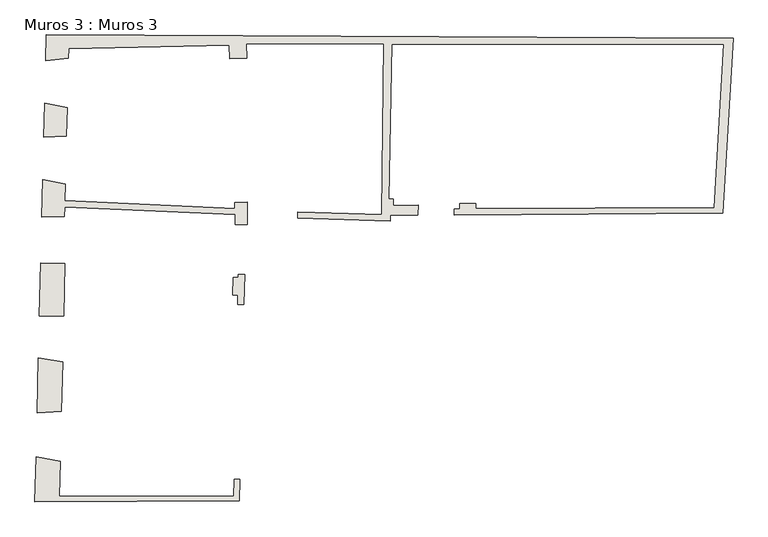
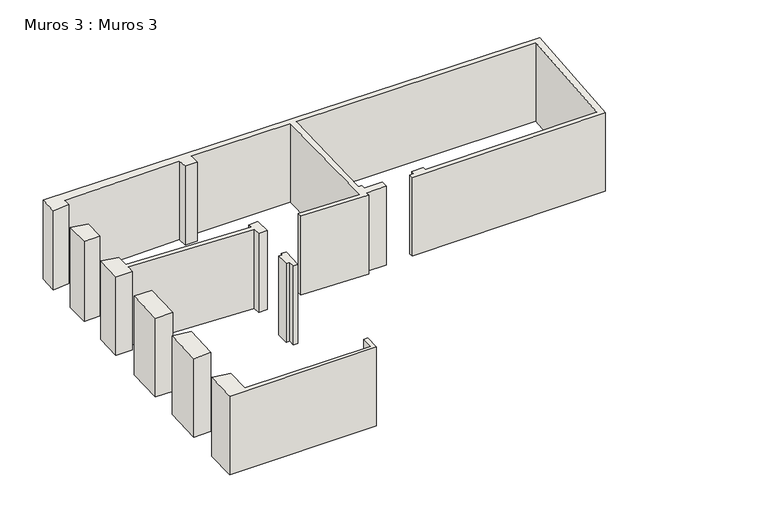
"""IFC4 building model written with IfcOpenShell, lengths in millimetres: wall geometry, Muros 3 : Muros 3."""

from ifc_helpers import new_model, si_unit, frame, origin, place, context, project, spatial, polyline, outline, extrude, source, transform, mapped, element, save


def muros_3_muros_3_1f336510(model_context):
    return source(origin(), model_context, "Body", "SweptSolid", [
        extrude(outline(polyline([(236.472405, 9585.7021848), (773.7056596, 9477.1283443), (756.7893339, 8791.3319354), (216.0906298, 8762.4895163), (236.472405, 9585.7021848)])), frame((0.0, 0.0, 2820.0), z_axis=(0.0, 0.0, 1.0), x_axis=(1.0, 0.0, 0.0)), (0.0, 0.0, 1.0), 2815.0),
        extrude(outline(polyline([(6306.6916509, 6967.3525922), (8315.8314877, 6912.5884256), (8369.484095, 11002.755842), (5074.4462375, 11002.755842), (5081.9266474, 10661.6965007), (4672.0252493, 10652.706187), (4661.0484219, 10976.9195943), (808.6174979, 10892.471941), (802.8559852, 10658.8973011), (261.4434951, 10603.861724), (276.6718664, 11220.5013177), (16746.4845601, 11145.3903243), (16498.7361698, 6943.8498156), (10056.2246907, 6898.6668051), (10055.4539754, 7037.4550295), (10189.2243199, 7040.293247), (10191.87046, 7171.8263194), (10579.0243183, 7173.7033106), (10579.3051053, 7047.5369156), (16296.5986764, 7078.4537169), (16527.3756277, 10995.4040787), (8557.1019783, 10995.4040787), (8481.6052972, 7273.8096053), (8593.6858106, 7276.7393451), (8590.6477122, 7126.7701103), (9191.0153921, 7138.8373033), (9183.3175083, 6892.5448797), (8525.764667, 6887.9332905), (8523.0890852, 6756.8833853), (6302.6045411, 6817.4082858), (6306.6916509, 6967.3525922)])), frame((0.0, 0.0, 2810.0), z_axis=(0.0, 0.0, 1.0), x_axis=(1.0, 0.0, 0.0)), (0.0, 0.0, 1.0), 2770.0),
        extrude(outline(polyline([(718.5193301, 7239.1607716), (4794.0409246, 7054.7763886), (4788.9955688, 7192.8679977), (5089.9990703, 7203.0758527), (5096.1566901, 6671.3256328), (4807.2597485, 6664.9928342), (4800.371051, 6903.5853748), (714.773176, 7089.0028724), (707.6047788, 6853.2043412), (168.5264063, 6841.3874121), (191.0313797, 7750.355302), (726.8927321, 7640.951983), (718.5193301, 7239.1607716)])), frame((0.0, 0.0, 2810.0), z_axis=(0.0, 0.0, 1.0), x_axis=(1.0, 0.0, 0.0)), (0.0, 0.0, 1.0), 2770.0),
        extrude(outline(polyline([(715.4598426, 5728.6592649), (687.0570653, 4469.0213486), (110.0970895, 4469.0213486), (141.4283569, 5742.8187201), (715.4598426, 5728.6592649)])), frame((0.0, 0.0, 2810.0), z_axis=(0.0, 0.0, 1.0), x_axis=(1.0, 0.0, 0.0)), (0.0, 0.0, 1.0), 2770.0),
        extrude(outline(polyline([(663.5539278, 3373.4495511), (635.4130453, 2178.7233012), (52.8263359, 2150.8479365), (85.1762534, 3462.3299709), (663.5539278, 3373.4495511)])), frame((0.0, 0.0, 2810.0), z_axis=(0.0, 0.0, 1.0), x_axis=(1.0, 0.0, 0.0)), (0.0, 0.0, 1.0), 2770.0),
        extrude(outline(polyline([(4774.2409294, 140.2623625), (4781.8753132, 553.1701949), (4910.3947558, 550.7939582), (4897.9109072, 29.1900443), (-0.0024191, 9.1434656), (26.5434598, 1085.3268361), (608.5511563, 987.3541022), (589.4506213, 140.2623625), (4774.2409294, 140.2623625)])), frame((0.0, 0.0, 2810.0), z_axis=(0.0, 0.0, 1.0), x_axis=(1.0, 0.0, 0.0)), (0.0, 0.0, 1.0), 2770.0),
        extrude(outline(polyline([(5028.0256196, 5465.682078), (5010.8884985, 4749.6537314), (4859.5171739, 4752.4524837), (4863.5977742, 4973.1529203), (4744.6962043, 4970.3402342), (4752.6354343, 5399.7357621), (4871.4443841, 5397.5390657), (4873.1639975, 5469.3884709), (5028.0256196, 5465.682078)])), frame((0.0, 0.0, 2810.0), z_axis=(0.0, 0.0, 1.0), x_axis=(1.0, 0.0, 0.0)), (0.0, 0.0, 1.0), 2770.0),
    ])


if __name__ == "__main__":
    model = new_model("IFC4")
    model_context = context("Model", 3, world=origin())
    ifc_project = project(units=[si_unit("LENGTHUNIT", "METRE", prefix="MILLI")], contexts=[model_context])
    site = spatial("IfcSite", under=ifc_project)
    building = spatial("IfcBuilding", under=site)
    placement = place(None, origin())
    muros_3_muros_3_shape = muros_3_muros_3_1f336510(model_context)
    element("IfcWall", 1, ObjectType="Muros 3 : Muros 3", at=placement, inside=building, context=model_context, shape_type="MappedRepresentation", body=[
        mapped(muros_3_muros_3_shape, transform((0.0, 0.0, 0.0), x_axis=(1.0, 0.0, 0.0), y_axis=(0.0, 1.0, 0.0), z_axis=(0.0, 0.0, 1.0))),
    ])
    save(model, "model.ifc")
